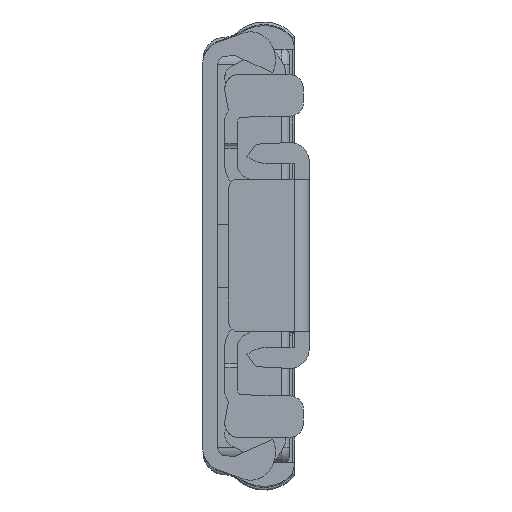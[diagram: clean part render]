
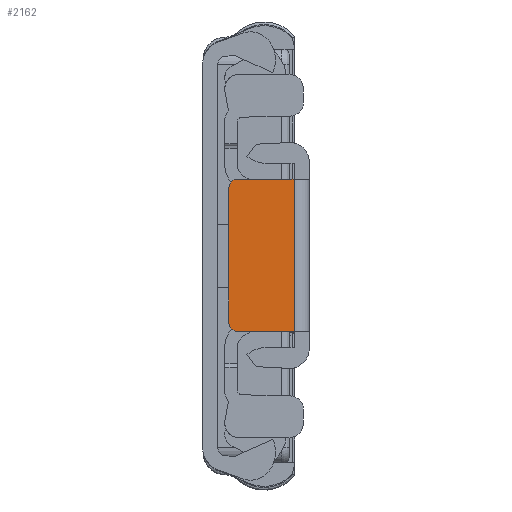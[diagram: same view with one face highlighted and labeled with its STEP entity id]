
A CAD part, front view. The second image highlights one B-rep face of the part: STEP entity #2162.
In plain terms, the highlighted planar face has unit normal (0, -1, 0).
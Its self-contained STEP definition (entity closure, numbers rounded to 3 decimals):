
#2162 = ADVANCED_FACE( '', ( #4378 ), #4379, .T. );
#4378 = FACE_OUTER_BOUND( '', #6703, .T. );
#4379 = PLANE( '', #6704 );
#6703 = EDGE_LOOP( '', ( #13019, #13020, #13021, #13022, #13023, #13024 ) );
#6704 = AXIS2_PLACEMENT_3D( '', #13025, #13026, #13027 );
#13019 = ORIENTED_EDGE( '', *, *, #14160, .T. );
#13020 = ORIENTED_EDGE( '', *, *, #15199, .T. );
#13021 = ORIENTED_EDGE( '', *, *, #14038, .T. );
#13022 = ORIENTED_EDGE( '', *, *, #14648, .T. );
#13023 = ORIENTED_EDGE( '', *, *, #15676, .T. );
#13024 = ORIENTED_EDGE( '', *, *, #13637, .T. );
#13025 = CARTESIAN_POINT( '', ( -9., -475.302, -2.366 ) );
#13026 = DIRECTION( '', ( 0., -1., 0. ) );
#13027 = DIRECTION( '', ( 0., 0., -1. ) );
#13637 = EDGE_CURVE( '', #16408, #16409, #16410, .T. );
#14038 = EDGE_CURVE( '', #17110, #17111, #17112, .T. );
#14160 = EDGE_CURVE( '', #16409, #17316, #17318, .T. );
#14648 = EDGE_CURVE( '', #17111, #18128, #18130, .T. );
#15199 = EDGE_CURVE( '', #17316, #17110, #18969, .T. );
#15676 = EDGE_CURVE( '', #18128, #16408, #19538, .T. );
#16408 = VERTEX_POINT( '', #20437 );
#16409 = VERTEX_POINT( '', #20438 );
#16410 = CIRCLE( '', #20439, 1. );
#17110 = VERTEX_POINT( '', #21403 );
#17111 = VERTEX_POINT( '', #21404 );
#17112 = LINE( '', #21405, #21406 );
#17316 = VERTEX_POINT( '', #21673 );
#17318 = LINE( '', #21676, #21677 );
#18128 = VERTEX_POINT( '', #22788 );
#18130 = LINE( '', #22790, #22791 );
#18969 = CIRCLE( '', #24023, 1. );
#19538 = LINE( '', #24862, #24863 );
#20437 = CARTESIAN_POINT( '', ( 9., -475.302, 4.8 ) );
#20438 = CARTESIAN_POINT( '', ( 8., -475.302, 5.8 ) );
#20439 = AXIS2_PLACEMENT_3D( '', #25628, #25629, #25630 );
#21403 = CARTESIAN_POINT( '', ( -9., -475.302, 4.8 ) );
#21404 = CARTESIAN_POINT( '', ( -9., -475.302, -1.898 ) );
#21405 = CARTESIAN_POINT( '', ( -9., -475.302, -2.366 ) );
#21406 = VECTOR( '', #26170, 1000. );
#21673 = CARTESIAN_POINT( '', ( -8., -475.302, 5.8 ) );
#21676 = CARTESIAN_POINT( '', ( 9., -475.302, 5.8 ) );
#21677 = VECTOR( '', #26353, 1000. );
#22788 = CARTESIAN_POINT( '', ( 9., -475.302, -1.898 ) );
#22790 = CARTESIAN_POINT( '', ( -9., -475.302, -1.898 ) );
#22791 = VECTOR( '', #27112, 1000. );
#24023 = AXIS2_PLACEMENT_3D( '', #27879, #27880, #27881 );
#24862 = CARTESIAN_POINT( '', ( 9., -475.302, -2.366 ) );
#24863 = VECTOR( '', #28315, 1000. );
#25628 = CARTESIAN_POINT( '', ( 8., -475.302, 4.8 ) );
#25629 = DIRECTION( '', ( 0., -1., 0. ) );
#25630 = DIRECTION( '', ( 0., 0., -1. ) );
#26170 = DIRECTION( '', ( 0., 0., -1. ) );
#26353 = DIRECTION( '', ( -1., 0., 0. ) );
#27112 = DIRECTION( '', ( 1., 0., 0. ) );
#27879 = CARTESIAN_POINT( '', ( -8., -475.302, 4.8 ) );
#27880 = DIRECTION( '', ( 0., -1., 0. ) );
#27881 = DIRECTION( '', ( 0., 0., -1. ) );
#28315 = DIRECTION( '', ( 0., 0., 1. ) );
